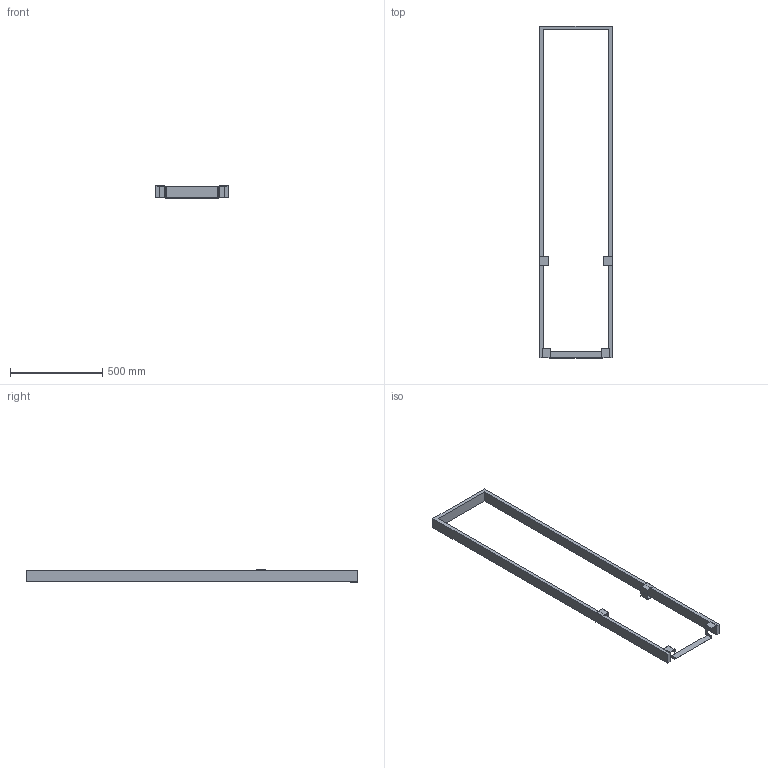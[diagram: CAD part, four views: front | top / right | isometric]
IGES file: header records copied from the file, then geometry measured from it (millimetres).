
Start section:  PTC IGES file: 52332388.igs
Global section: file name: 52332388.igs; native system: Creo Parametric by PTC Inc.; preprocessor: 2022162; author: wep; organization: Unknown; date: 20241218.130939; units: millimetre
Bounding box: 394 x 1800 x 65.5 mm (x, y, z)
Surface area: 705367.1 mm2 (no closed solid volume)
Topology: 0 solids, 0 shells, 58 faces, 320 edges, 320 vertices
Faces by surface type: bspline 52, revolution 6
